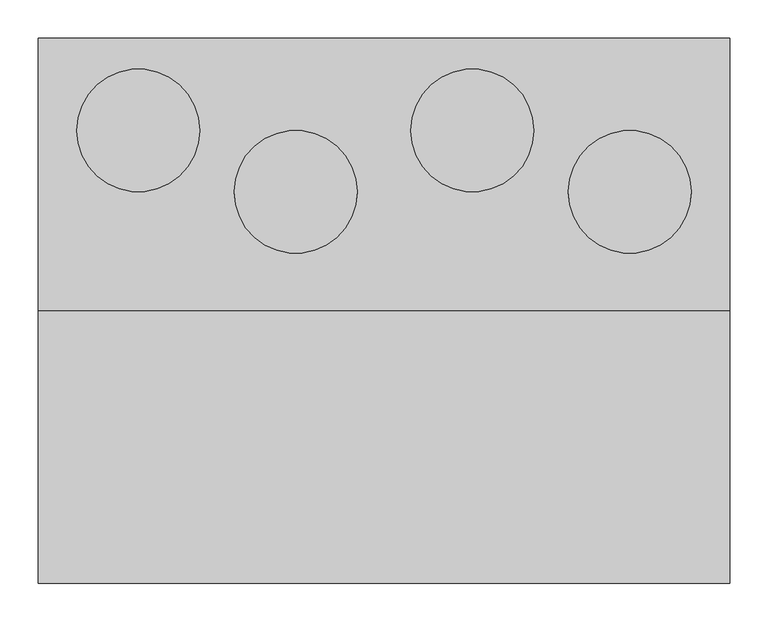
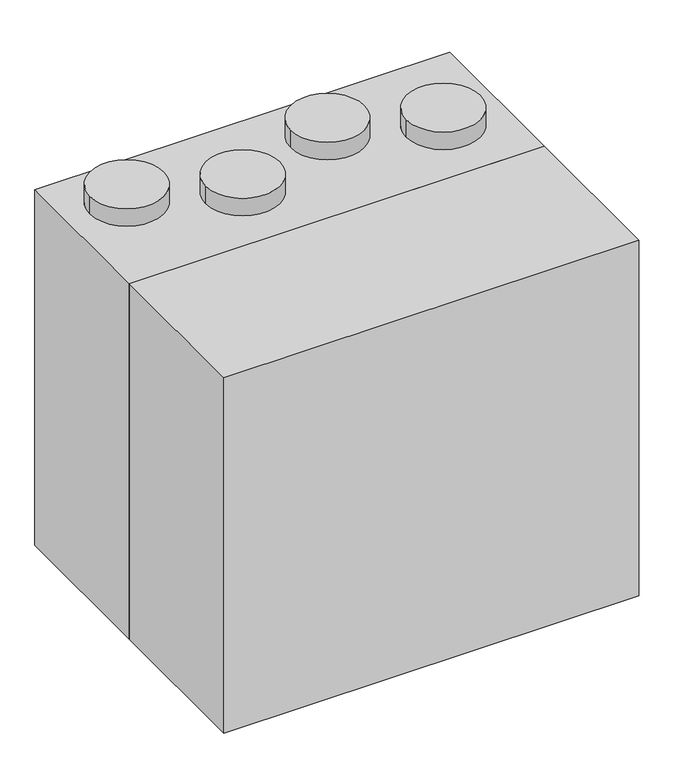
"""IFC4 building model written with IfcOpenShell, lengths in millimetres: proxy geometry, ADSK_КПВУ BRISSAGO VPE_круглая : Brissago VPE 450."""

from ifc_helpers import new_model, si_unit, frame, origin, origin_with_axes, place, context, project, spatial, polyline, circle_curve, outline, extrude, source, transform, mapped, element, save
from ifc_brep_helpers import plane_surface, cylinder_surface, advanced_brep


def mechanical_equipment_411f74db(model_context):
    return source(origin(), model_context, "Body", "SolidModel", [
        extrude(outline(polyline([(716.0, -177.5), (716.0, -532.5), (-184.0, -532.5), (-184.0, -177.5), (716.0, -177.5)])), origin_with_axes(), (0.0, 0.0, 1.0), 815.0),
        advanced_brep(
        [(716.0, -177.5, 0.0), (716.0, -177.5, 815.0), (-184.0, -177.5, 815.0), (-184.0, -177.5, 0.0), (-184.0, 177.5, 0.0), (-184.0, 177.5, 815.0), (716.0, 177.5, 815.0), (716.0, 177.5, 0.0), (-134.0, 57.5, 855.0), (26.0, 57.5, 855.0), (71.0, -22.5, 855.0), (231.0, -22.5, 855.0), (301.0, 57.5, 855.0), (461.0, 57.5, 855.0), (506.0, -22.5, 855.0), (666.0, -22.5, 855.0), (-134.0, 57.5, 815.0), (26.0, 57.5, 815.0), (71.0, -22.5, 815.0), (231.0, -22.5, 815.0), (301.0, 57.5, 815.0), (461.0, 57.5, 815.0), (506.0, -22.5, 815.0), (666.0, -22.5, 815.0)],
        [
            (0, 1),
            (1, 2),
            (2, 3),
            (3, 0),
            (4, 5),
            (5, 6),
            (6, 7),
            (7, 4),
            (7, 0),
            (3, 4),
            (8, 9, circle_curve(frame((-54.0, 57.5, 855.0), z_axis=(0.0, 0.0, 1.0), x_axis=(1.0, 0.0, 0.0)), 80.0)),
            (9, 8, circle_curve(frame((-54.0, 57.5, 855.0), z_axis=(0.0, 0.0, 1.0), x_axis=(1.0, 0.0, 0.0)), 80.0)),
            (10, 11, circle_curve(frame((151.0, -22.5, 855.0), z_axis=(0.0, 0.0, 1.0), x_axis=(1.0, 0.0, 0.0)), 80.0)),
            (11, 10, circle_curve(frame((151.0, -22.5, 855.0), z_axis=(0.0, 0.0, 1.0), x_axis=(1.0, 0.0, 0.0)), 80.0)),
            (12, 13, circle_curve(frame((381.0, 57.5, 855.0), z_axis=(0.0, 0.0, 1.0), x_axis=(1.0, 0.0, 0.0)), 80.0)),
            (13, 12, circle_curve(frame((381.0, 57.5, 855.0), z_axis=(0.0, 0.0, 1.0), x_axis=(1.0, 0.0, 0.0)), 80.0)),
            (14, 15, circle_curve(frame((586.0, -22.5, 855.0), z_axis=(0.0, 0.0, 1.0), x_axis=(1.0, 0.0, 0.0)), 80.0)),
            (15, 14, circle_curve(frame((586.0, -22.5, 855.0), z_axis=(0.0, 0.0, 1.0), x_axis=(1.0, 0.0, 0.0)), 80.0)),
            (8, 16),
            (16, 17, circle_curve(frame((-54.0, 57.5, 815.0), z_axis=(0.0, 0.0, 1.0), x_axis=(1.0, 0.0, 0.0)), 80.0)),
            (17, 9),
            (17, 16, circle_curve(frame((-54.0, 57.5, 815.0), z_axis=(0.0, 0.0, 1.0), x_axis=(1.0, 0.0, 0.0)), 80.0)),
            (10, 18),
            (18, 19, circle_curve(frame((151.0, -22.5, 815.0), z_axis=(0.0, 0.0, 1.0), x_axis=(1.0, 0.0, 0.0)), 80.0)),
            (19, 11),
            (19, 18, circle_curve(frame((151.0, -22.5, 815.0), z_axis=(0.0, 0.0, 1.0), x_axis=(1.0, 0.0, 0.0)), 80.0)),
            (12, 20),
            (20, 21, circle_curve(frame((381.0, 57.5, 815.0), z_axis=(0.0, 0.0, 1.0), x_axis=(1.0, 0.0, 0.0)), 80.0)),
            (21, 13),
            (21, 20, circle_curve(frame((381.0, 57.5, 815.0), z_axis=(0.0, 0.0, 1.0), x_axis=(1.0, 0.0, 0.0)), 80.0)),
            (14, 22),
            (22, 23, circle_curve(frame((586.0, -22.5, 815.0), z_axis=(0.0, 0.0, 1.0), x_axis=(1.0, 0.0, 0.0)), 80.0)),
            (23, 15),
            (23, 22, circle_curve(frame((586.0, -22.5, 815.0), z_axis=(0.0, 0.0, 1.0), x_axis=(1.0, 0.0, 0.0)), 80.0)),
            (6, 1),
            (2, 5),
        ],
        [
            plane_surface(frame((-24.0, -177.5, 0.0), z_axis=(0.0, -1.0, 0.0), x_axis=(0.0, 0.0, 1.0))),
            plane_surface(frame((-24.0, 177.5, 0.0), z_axis=(0.0, 1.0, 0.0), x_axis=(0.0, 0.0, -1.0))),
            plane_surface(frame((-84.0, -177.5, 0.0), z_axis=(0.0, 0.0, -1.0), x_axis=(0.0, 1.0, 0.0))),
            plane_surface(frame((26.0, 57.5, 855.0), z_axis=(0.0, 0.0, 1.0), x_axis=(0.0, 1.0, 0.0))),
            cylinder_surface(frame((-54.0, 57.5, 815.0), z_axis=(0.0, 0.0, 1.0), x_axis=(1.0, 0.0, 0.0)), 80.0),
            cylinder_surface(frame((151.0, -22.5, 0.0), z_axis=(0.0, 0.0, 1.0), x_axis=(1.0, 0.0, 0.0)), 80.0),
            cylinder_surface(frame((381.0, 57.5, 0.0), z_axis=(0.0, 0.0, 1.0), x_axis=(1.0, 0.0, 0.0)), 80.0),
            cylinder_surface(frame((586.0, -22.5, 0.0), z_axis=(0.0, 0.0, 1.0), x_axis=(1.0, 0.0, 0.0)), 80.0),
            plane_surface(frame((716.0, -177.5, 815.0), z_axis=(1.0, 0.0, 0.0), x_axis=(0.0, 0.0, -1.0))),
            plane_surface(frame((-184.0, -177.5, 815.0), z_axis=(-1.0, 0.0, 0.0), x_axis=(0.0, 0.0, 1.0))),
            plane_surface(frame((716.0, 177.5, 815.0), z_axis=(0.0, 0.0, 1.0), x_axis=(-1.0, 0.0, 0.0))),
        ],
        [
            (0, [[1, 2, 3, 4]]),
            (1, [[5, 6, 7, 8]]),
            (2, [[-8, 9, -4, 10]]),
            (3, [[11, 12]]),
            (3, [[13, 14]]),
            (3, [[15, 16]]),
            (3, [[17, 18]]),
            (4, [[-11, 19, 20, 21]]),
            (4, [[-12, -21, 22, -19]]),
            (5, [[-13, 23, 24, 25]]),
            (5, [[-14, -25, 26, -23]]),
            (6, [[-15, 27, 28, 29]]),
            (6, [[-16, -29, 30, -27]]),
            (7, [[-17, 31, 32, 33]]),
            (7, [[-18, -33, 34, -31]]),
            (8, [[-1, -9, -7, 35]]),
            (9, [[36, -5, -10, -3]]),
            (10, [[-35, -6, -36, -2], [-20, -22], [-24, -26], [-28, -30], [-32, -34]]),
        ],
    ),
    ])


if __name__ == "__main__":
    model = new_model("IFC4")
    model_context = context("Model", 3, world=origin())
    ifc_project = project(units=[si_unit("LENGTHUNIT", "METRE", prefix="MILLI")], contexts=[model_context])
    site = spatial("IfcSite", under=ifc_project)
    building = spatial("IfcBuilding", under=site)
    placement = place(None, origin())
    mechanical_equipment_shape = mechanical_equipment_411f74db(model_context)
    element("IfcBuildingElementProxy", 1, Name="ADSK_КПВУ BRISSAGO VPE_круглая : Brissago VPE 450", ObjectType="ADSK_КПВУ BRISSAGO VPE_круглая : Brissago VPE 450", at=placement, inside=building, context=model_context, shape_type="MappedRepresentation", body=[
        mapped(mechanical_equipment_shape, transform((0.0, 0.0, 0.0), x_axis=(1.0, 0.0, 0.0), y_axis=(0.0, 1.0, 0.0), z_axis=(0.0, 0.0, 1.0))),
    ])
    save(model, "model.ifc")
